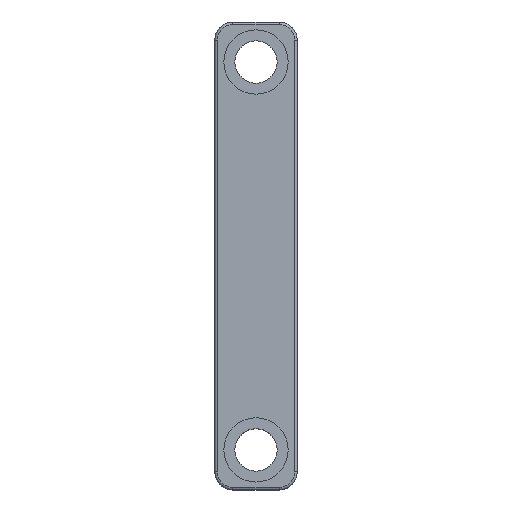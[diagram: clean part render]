
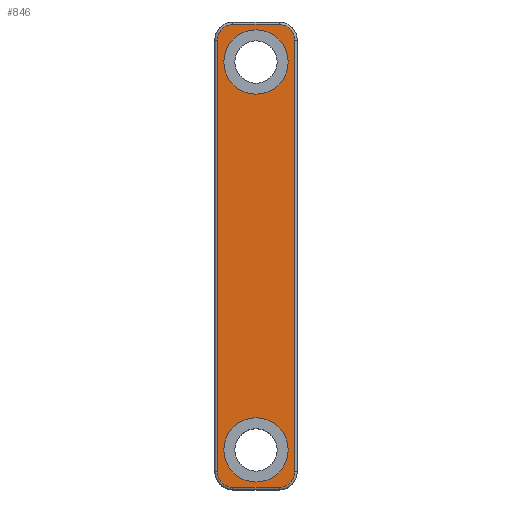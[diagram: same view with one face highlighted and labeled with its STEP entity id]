
A CAD part, top view. The second image highlights one B-rep face of the part: STEP entity #846.
In plain terms, the highlighted planar face has unit normal (0, 0, 1).
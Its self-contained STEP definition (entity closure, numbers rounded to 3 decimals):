
#846 = ADVANCED_FACE ( 'NONE', ( #2246, #2238, #2240 ), #1097, .T. ) ;
#1089 = DIRECTION ( 'NONE',  ( 0., 0., 1. ) ) ;
#1095 = CARTESIAN_POINT ( 'NONE',  ( -4., -25.25, 50.5 ) ) ;
#1097 = PLANE ( 'NONE',  #3478 ) ;
#1099 = DIRECTION ( 'NONE',  ( 1., 0., 0. ) ) ;
#1568 = CIRCLE ( 'NONE', #3409, 2.65 ) ;
#1578 = VECTOR ( 'NONE', #4348, 1000. ) ;
#1581 = LINE ( 'NONE', #4349, #1578 ) ;
#1583 = VECTOR ( 'NONE', #4365, 1000. ) ;
#1584 = CIRCLE ( 'NONE', #3414, 1.3 ) ;
#1585 = LINE ( 'NONE', #4366, #1583 ) ;
#1586 = VECTOR ( 'NONE', #4370, 1000. ) ;
#1588 = LINE ( 'NONE', #4371, #1586 ) ;
#1589 = CIRCLE ( 'NONE', #3416, 1.3 ) ;
#1591 = CIRCLE ( 'NONE', #3418, 1.3 ) ;
#1597 = CIRCLE ( 'NONE', #3419, 1.3 ) ;
#1598 = VECTOR ( 'NONE', #4414, 1000. ) ;
#1599 = LINE ( 'NONE', #4416, #1598 ) ;
#1684 = CIRCLE ( 'NONE', #3646, 2.65 ) ;
#1690 = CIRCLE ( 'NONE', #3647, 2.65 ) ;
#1742 = CIRCLE ( 'NONE', #3665, 2.65 ) ;
#2238 = FACE_BOUND ( 'NONE', #5998, .T. ) ;
#2240 = FACE_BOUND ( 'NONE', #5981, .T. ) ;
#2246 = FACE_OUTER_BOUND ( 'NONE', #5975, .T. ) ;
#2336 = ORIENTED_EDGE ( 'NONE', *, *, #3953, .F. ) ;
#2341 = ORIENTED_EDGE ( 'NONE', *, *, #3958, .F. ) ;
#2424 = ORIENTED_EDGE ( 'NONE', *, *, #4055, .T. ) ;
#2425 = ORIENTED_EDGE ( 'NONE', *, *, #4052, .T. ) ;
#2426 = ORIENTED_EDGE ( 'NONE', *, *, #4053, .T. ) ;
#2427 = ORIENTED_EDGE ( 'NONE', *, *, #4056, .T. ) ;
#2428 = ORIENTED_EDGE ( 'NONE', *, *, #4042, .T. ) ;
#2429 = ORIENTED_EDGE ( 'NONE', *, *, #4051, .T. ) ;
#2430 = ORIENTED_EDGE ( 'NONE', *, *, #4058, .T. ) ;
#2431 = ORIENTED_EDGE ( 'NONE', *, *, #4048, .T. ) ;
#2432 = ORIENTED_EDGE ( 'NONE', *, *, #4065, .F. ) ;
#2433 = ORIENTED_EDGE ( 'NONE', *, *, #3919, .F. ) ;
#3194 = VERTEX_POINT ( 'NONE', #5847 ) ;
#3196 = VERTEX_POINT ( 'NONE', #5843 ) ;
#3202 = VERTEX_POINT ( 'NONE', #5834 ) ;
#3203 = VERTEX_POINT ( 'NONE', #5830 ) ;
#3204 = VERTEX_POINT ( 'NONE', #5829 ) ;
#3205 = VERTEX_POINT ( 'NONE', #5828 ) ;
#3260 = VERTEX_POINT ( 'NONE', #5690 ) ;
#3261 = VERTEX_POINT ( 'NONE', #5687 ) ;
#3277 = VERTEX_POINT ( 'NONE', #5632 ) ;
#3297 = VERTEX_POINT ( 'NONE', #5576 ) ;
#3308 = VERTEX_POINT ( 'NONE', #5558 ) ;
#3310 = VERTEX_POINT ( 'NONE', #5557 ) ;
#3409 = AXIS2_PLACEMENT_3D ( 'NONE', #4314, #4313, #4312 ) ;
#3414 = AXIS2_PLACEMENT_3D ( 'NONE', #4352, #4351, #4350 ) ;
#3416 = AXIS2_PLACEMENT_3D ( 'NONE', #4364, #4363, #4362 ) ;
#3418 = AXIS2_PLACEMENT_3D ( 'NONE', #4369, #4368, #4367 ) ;
#3419 = AXIS2_PLACEMENT_3D ( 'NONE', #4376, #4375, #4374 ) ;
#3478 = AXIS2_PLACEMENT_3D ( 'NONE', #1095, #1089, #1099 ) ;
#3646 = AXIS2_PLACEMENT_3D ( 'NONE', #4735, #4734, #4733 ) ;
#3647 = AXIS2_PLACEMENT_3D ( 'NONE', #4748, #4747, #4746 ) ;
#3665 = AXIS2_PLACEMENT_3D ( 'NONE', #4244, #4284, #4242 ) ;
#3919 = EDGE_CURVE ( 'NONE', #3261, #3297, #1742, .T. ) ;
#3953 = EDGE_CURVE ( 'NONE', #3277, #3260, #1690, .T. ) ;
#3958 = EDGE_CURVE ( 'NONE', #3260, #3277, #1684, .T. ) ;
#4042 = EDGE_CURVE ( 'NONE', #3204, #3203, #1599, .T. ) ;
#4048 = EDGE_CURVE ( 'NONE', #3202, #3310, #1597, .T. ) ;
#4051 = EDGE_CURVE ( 'NONE', #3203, #3194, #1591, .T. ) ;
#4052 = EDGE_CURVE ( 'NONE', #3308, #3196, #1589, .T. ) ;
#4053 = EDGE_CURVE ( 'NONE', #3196, #3205, #1588, .T. ) ;
#4055 = EDGE_CURVE ( 'NONE', #3310, #3308, #1585, .T. ) ;
#4056 = EDGE_CURVE ( 'NONE', #3205, #3204, #1584, .T. ) ;
#4058 = EDGE_CURVE ( 'NONE', #3194, #3202, #1581, .T. ) ;
#4065 = EDGE_CURVE ( 'NONE', #3297, #3261, #1568, .T. ) ;
#4242 = DIRECTION ( 'NONE',  ( 1., 0., 0. ) ) ;
#4244 = CARTESIAN_POINT ( 'NONE',  ( 0., -20., 50.5 ) ) ;
#4284 = DIRECTION ( 'NONE',  ( 0., 0., 1. ) ) ;
#4312 = DIRECTION ( 'NONE',  ( 1., 0., 0. ) ) ;
#4313 = DIRECTION ( 'NONE',  ( 0., 0., 1. ) ) ;
#4314 = CARTESIAN_POINT ( 'NONE',  ( 0., -20., 50.5 ) ) ;
#4348 = DIRECTION ( 'NONE',  ( 1., 0., 0. ) ) ;
#4349 = CARTESIAN_POINT ( 'NONE',  ( 1.9, -23.1, 50.5 ) ) ;
#4350 = DIRECTION ( 'NONE',  ( 1., 0., 0. ) ) ;
#4351 = DIRECTION ( 'NONE',  ( 0., 0., 1. ) ) ;
#4352 = CARTESIAN_POINT ( 'NONE',  ( -1.9, 13.8, 50.5 ) ) ;
#4362 = DIRECTION ( 'NONE',  ( 1., 0., 0. ) ) ;
#4363 = DIRECTION ( 'NONE',  ( 0., 0., 1. ) ) ;
#4364 = CARTESIAN_POINT ( 'NONE',  ( 1.9, 13.8, 50.5 ) ) ;
#4365 = DIRECTION ( 'NONE',  ( 0., 1., 0. ) ) ;
#4366 = CARTESIAN_POINT ( 'NONE',  ( 3.2, 13.8, 50.5 ) ) ;
#4367 = DIRECTION ( 'NONE',  ( 1., 0., 0. ) ) ;
#4368 = DIRECTION ( 'NONE',  ( 0., 0., 1. ) ) ;
#4369 = CARTESIAN_POINT ( 'NONE',  ( -1.9, -21.8, 50.5 ) ) ;
#4370 = DIRECTION ( 'NONE',  ( -1., 0., 0. ) ) ;
#4371 = CARTESIAN_POINT ( 'NONE',  ( -1.9, 15.1, 50.5 ) ) ;
#4374 = DIRECTION ( 'NONE',  ( 1., 0., 0. ) ) ;
#4375 = DIRECTION ( 'NONE',  ( 0., 0., 1. ) ) ;
#4376 = CARTESIAN_POINT ( 'NONE',  ( 1.9, -21.8, 50.5 ) ) ;
#4414 = DIRECTION ( 'NONE',  ( 0., -1., 0. ) ) ;
#4416 = CARTESIAN_POINT ( 'NONE',  ( -3.2, -21.8, 50.5 ) ) ;
#4733 = DIRECTION ( 'NONE',  ( 1., 0., 0. ) ) ;
#4734 = DIRECTION ( 'NONE',  ( 0., 0., 1. ) ) ;
#4735 = CARTESIAN_POINT ( 'NONE',  ( 0., 12., 50.5 ) ) ;
#4746 = DIRECTION ( 'NONE',  ( 1., 0., 0. ) ) ;
#4747 = DIRECTION ( 'NONE',  ( 0., 0., 1. ) ) ;
#4748 = CARTESIAN_POINT ( 'NONE',  ( 0., 12., 50.5 ) ) ;
#5557 = CARTESIAN_POINT ( 'NONE',  ( 3.2, -21.8, 50.5 ) ) ;
#5558 = CARTESIAN_POINT ( 'NONE',  ( 3.2, 13.8, 50.5 ) ) ;
#5576 = CARTESIAN_POINT ( 'NONE',  ( -2.65, -20., 50.5 ) ) ;
#5632 = CARTESIAN_POINT ( 'NONE',  ( -2.65, 12., 50.5 ) ) ;
#5687 = CARTESIAN_POINT ( 'NONE',  ( 2.65, -20., 50.5 ) ) ;
#5690 = CARTESIAN_POINT ( 'NONE',  ( 2.65, 12., 50.5 ) ) ;
#5828 = CARTESIAN_POINT ( 'NONE',  ( -1.9, 15.1, 50.5 ) ) ;
#5829 = CARTESIAN_POINT ( 'NONE',  ( -3.2, 13.8, 50.5 ) ) ;
#5830 = CARTESIAN_POINT ( 'NONE',  ( -3.2, -21.8, 50.5 ) ) ;
#5834 = CARTESIAN_POINT ( 'NONE',  ( 1.9, -23.1, 50.5 ) ) ;
#5843 = CARTESIAN_POINT ( 'NONE',  ( 1.9, 15.1, 50.5 ) ) ;
#5847 = CARTESIAN_POINT ( 'NONE',  ( -1.9, -23.1, 50.5 ) ) ;
#5975 = EDGE_LOOP ( 'NONE', ( #2424, #2425, #2426, #2427, #2428, #2429, #2430, #2431 ) ) ;
#5981 = EDGE_LOOP ( 'NONE', ( #2336, #2341 ) ) ;
#5998 = EDGE_LOOP ( 'NONE', ( #2432, #2433 ) ) ;
